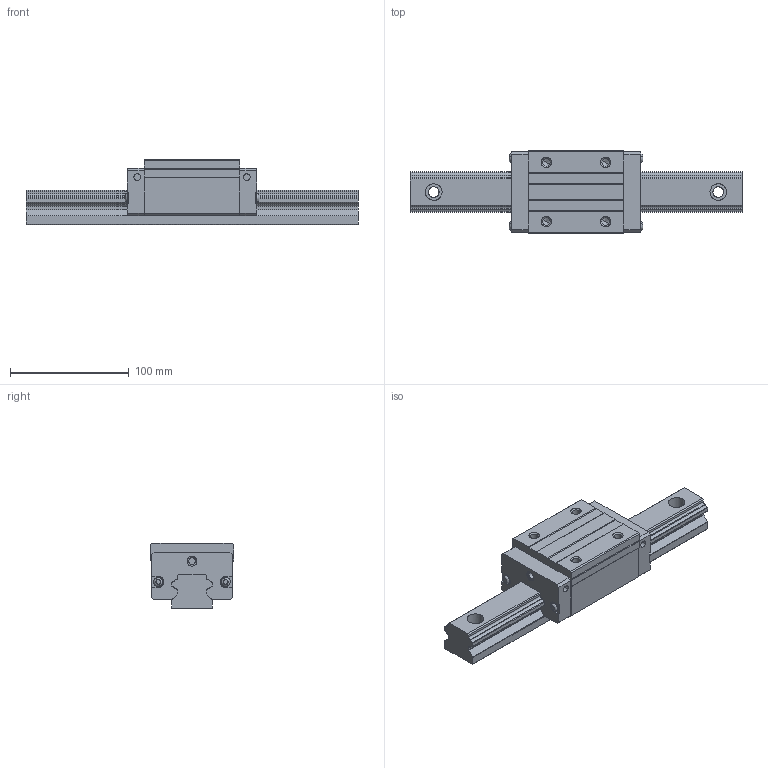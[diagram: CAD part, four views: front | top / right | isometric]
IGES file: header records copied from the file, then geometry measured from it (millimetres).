
Start section: START RECORD GO HERE.
Global section: file name: SBG35_SL.igs; native system: IBM CATIA IGES - CATIA Version 5 Release 16 ; preprocessor: CATIA Version 5 Release 16 ; author: mycom; organization: RD03; date: 20070228.142329; units: millimetre
Bounding box: 280 x 70 x 55 mm (x, y, z)
Surface area: 88036.6 mm2 (no closed solid volume)
Topology: 0 solids, 0 shells, 281 faces, 1500 edges, 1490 vertices
Faces by surface type: revolution 158, plane 123
